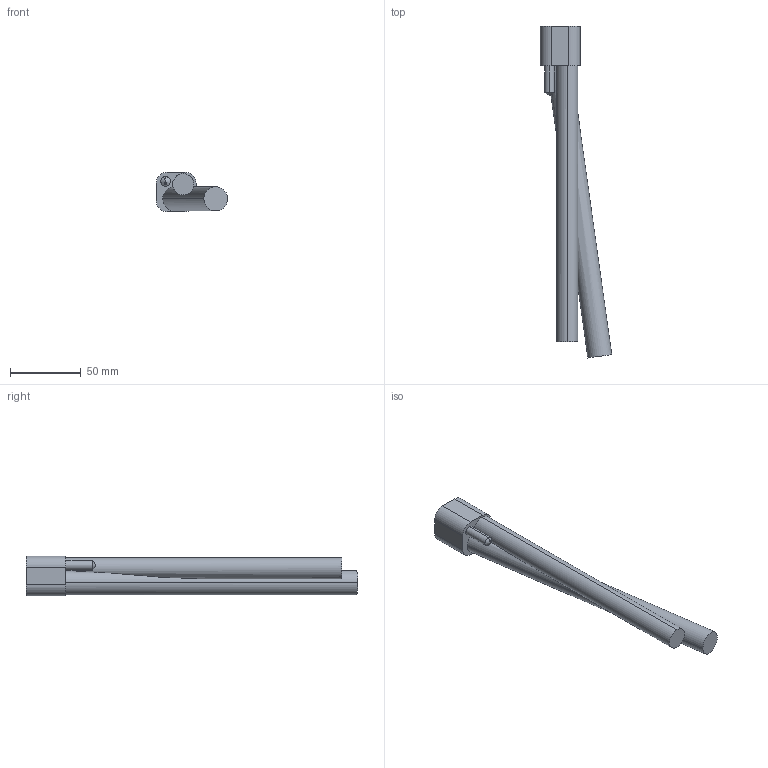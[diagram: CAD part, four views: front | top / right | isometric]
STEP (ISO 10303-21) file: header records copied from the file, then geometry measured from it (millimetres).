
FILE_DESCRIPTION (( 'STEP AP203' ), '1' );
FILE_NAME ('DR28125L-08-S.STEP', '2016-11-08T07:46:01', ( '' ), ( '' ), 'SwSTEP 2.0', 'SolidWorks 2015', '' );
FILE_SCHEMA (( 'CONFIG_CONTROL_DESIGN' ));
Length unit declared in the file: millimetre
Products named in the file (1): DR28125L-08-S
Bounding box: 50.34 x 233.9 x 28.02 mm (x, y, z)
Volume: 98160.2 mm3; surface area: 21860.6 mm2
Topology: 1 solids, 1 shells, 20 faces, 49 edges, 31 vertices
Faces by surface type: cylinder 10, plane 8, cone 2
Entity records: 738 total; most frequent: CARTESIAN_POINT 192, DIRECTION 102, ORIENTED_EDGE 94, EDGE_CURVE 47, AXIS2_PLACEMENT_3D 39, VERTEX_POINT 31, LINE 24, VECTOR 24
